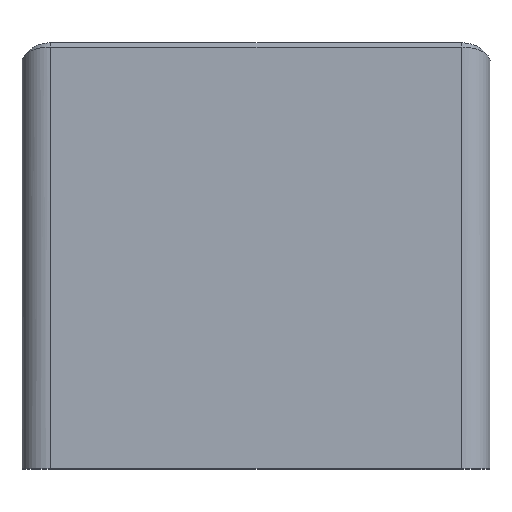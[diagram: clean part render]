
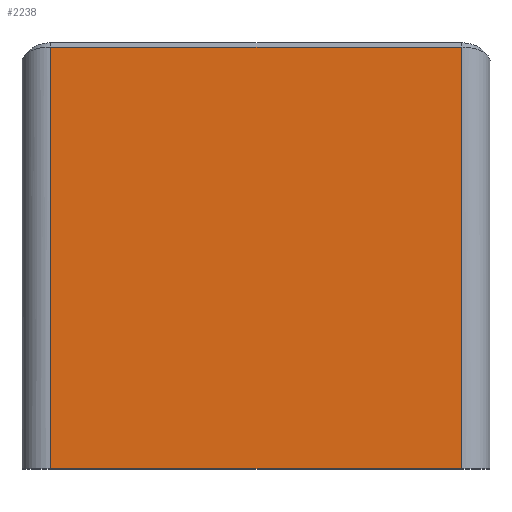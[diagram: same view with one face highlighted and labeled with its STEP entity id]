
A CAD part, top view. The second image highlights one B-rep face of the part: STEP entity #2238.
In plain terms, the highlighted planar face has unit normal (0, 0, 1).
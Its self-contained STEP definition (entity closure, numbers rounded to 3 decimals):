
#24=DIRECTION('',(1.,0.,0.));
#25=VECTOR('',#24,86.);
#26=CARTESIAN_POINT('',(-43.,0.,35.));
#27=LINE('',#26,#25);
#359=CARTESIAN_POINT('',(43.,88.268,35.));
#369=DIRECTION('',(-1.,0.,0.));
#370=VECTOR('',#369,86.);
#371=CARTESIAN_POINT('',(43.,88.268,35.));
#372=LINE('',#371,#370);
#373=DIRECTION('',(0.,-1.,0.));
#374=VECTOR('',#373,88.268);
#375=CARTESIAN_POINT('',(43.,88.268,35.));
#376=LINE('',#375,#374);
#377=DIRECTION('',(0.,-1.,0.));
#378=VECTOR('',#377,88.268);
#379=CARTESIAN_POINT('',(-43.,88.268,35.));
#380=LINE('',#379,#378);
#1661=CARTESIAN_POINT('',(-43.,0.,35.));
#1663=VERTEX_POINT('',#1661);
#1666=CARTESIAN_POINT('',(43.,0.,35.));
#1668=VERTEX_POINT('',#1666);
#1684=VERTEX_POINT('',#359);
#1687=CARTESIAN_POINT('',(-43.,88.268,35.));
#1688=VERTEX_POINT('',#1687);
#2226=CARTESIAN_POINT('',(-49.,0.,35.));
#2227=DIRECTION('',(0.,0.,1.));
#2228=DIRECTION('',(1.,0.,0.));
#2229=AXIS2_PLACEMENT_3D('',#2226,#2227,#2228);
#2230=PLANE('',#2229);
#2231=ORIENTED_EDGE('',*,*,#2216,.F.);
#2232=ORIENTED_EDGE('',*,*,#2152,.T.);
#2233=ORIENTED_EDGE('',*,*,#1778,.F.);
#2235=ORIENTED_EDGE('',*,*,#2234,.F.);
#2236=EDGE_LOOP('',(#2231,#2232,#2233,#2235));
#2237=FACE_OUTER_BOUND('',#2236,.F.);
#1778=EDGE_CURVE('',#1663,#1668,#27,.T.);
#2152=EDGE_CURVE('',#1684,#1668,#376,.T.);
#2216=EDGE_CURVE('',#1684,#1688,#372,.T.);
#2234=EDGE_CURVE('',#1688,#1663,#380,.T.);
#2238=ADVANCED_FACE('',(#2237),#2230,.T.);
